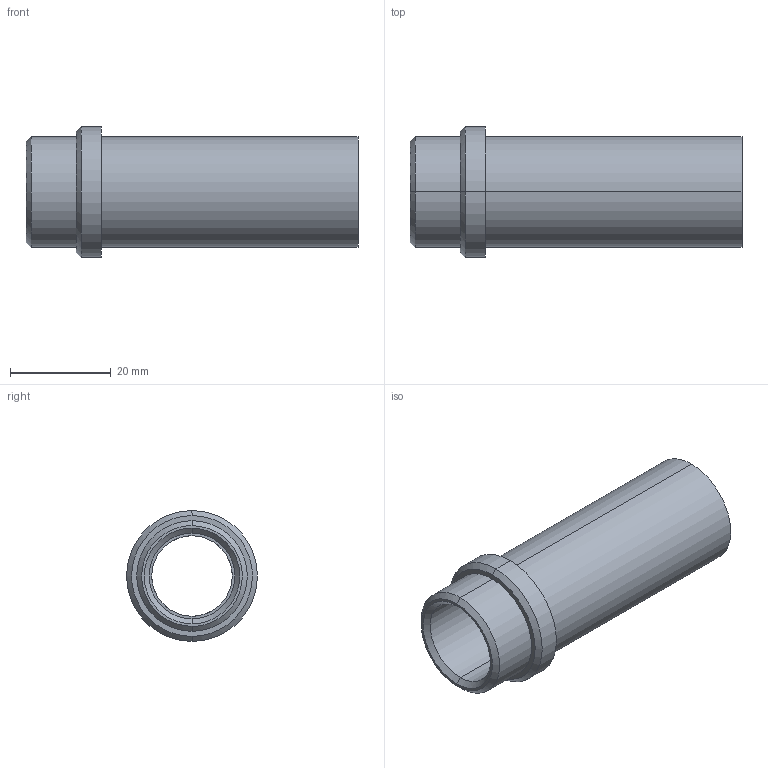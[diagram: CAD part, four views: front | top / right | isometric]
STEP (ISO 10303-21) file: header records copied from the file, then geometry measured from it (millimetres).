
FILE_DESCRIPTION(('CATIA V5 STEP Exchange'),'2;1');
FILE_NAME('C:\Users\Utente\Desktop\IO LAVORO\3D X SITO CF\X SITO\PLASTICA\358\358-16x66.stp','2021-04-08T13:54:01+00:00',('none'),('none'),'CATIA Version 5 Release 20 GA (IN-10)','CATIA V5 STEP AP203','none');
FILE_SCHEMA(('CONFIG_CONTROL_DESIGN'));
Length unit declared in the file: millimetre
Products named in the file (1): 358-16x66
Bounding box: 66 x 26 x 26 mm (x, y, z)
Volume: 11544.8 mm3; surface area: 8546.2 mm2
Topology: 1 solids, 1 shells, 23 faces, 74 edges, 56 vertices
Faces by surface type: cylinder 10, cone 6, plane 5, torus 2
Entity records: 1066 total; most frequent: CARTESIAN_POINT 378, ORIENTED_EDGE 148, DIRECTION 104, EDGE_CURVE 74, AXIS2_PLACEMENT_3D 66, VERTEX_POINT 56, CIRCLE 42, EDGE_LOOP 28
